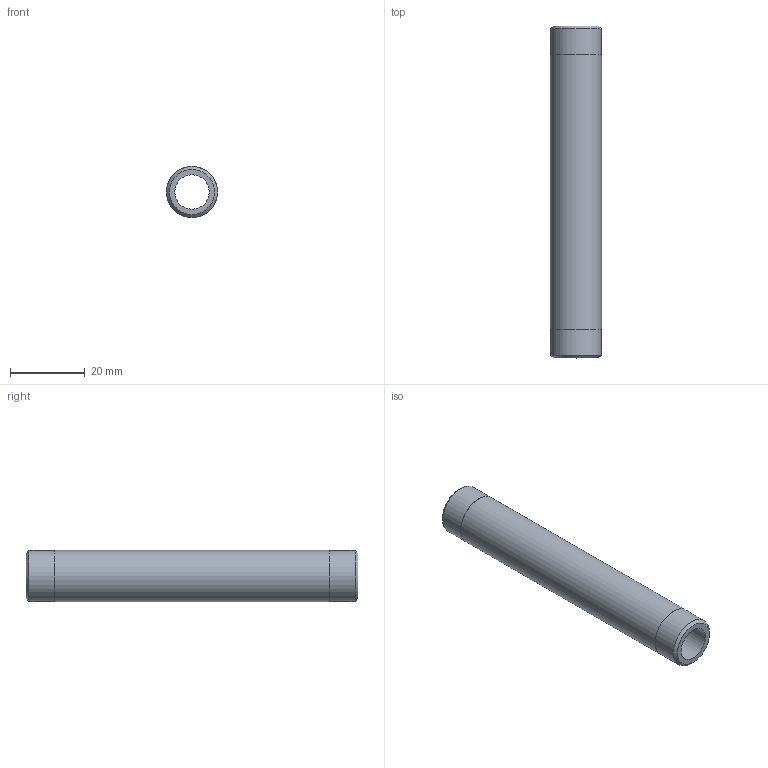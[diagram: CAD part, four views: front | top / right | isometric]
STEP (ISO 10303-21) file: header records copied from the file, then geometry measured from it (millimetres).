
FILE_DESCRIPTION(/* description */ (''),/* implementation_level */ '2;1');
FILE_NAME(/* name */ 'C:/Users/drich/Desktop/BPN14-3-1_2 v1.step',/* time_stamp */ '2020-01-03T14:37:03-06:00',/* author */ (''),/* organization */ (''),/* preprocessor_version */ 'ST-DEVELOPER v18',/* originating_system */ 'Autodesk Translation Framework v8.12.0.6',/* authorisation */ '');
FILE_SCHEMA (('AUTOMOTIVE_DESIGN { 1 0 10303 214 3 1 1 }'));
Length unit declared in the file: inch
Products named in the file (1): BPN14-3-1_2
Bounding box: 13.72 x 88.9 x 13.72 mm (x, y, z)
Volume: 7126.4 mm3; surface area: 6531.9 mm2
Topology: 1 solids, 1 shells, 10 faces, 24 edges, 18 vertices
Faces by surface type: cylinder 4, plane 4, cone 2
Full cylindrical faces by diameter (mm): 9.246 x1, 13.665 x2, 13.716 x1
Entity records: 360 total; most frequent: DIRECTION 64, CARTESIAN_POINT 53, ORIENTED_EDGE 48, AXIS2_PLACEMENT_3D 29, EDGE_CURVE 24, CIRCLE 18, VERTEX_POINT 18, EDGE_LOOP 14
